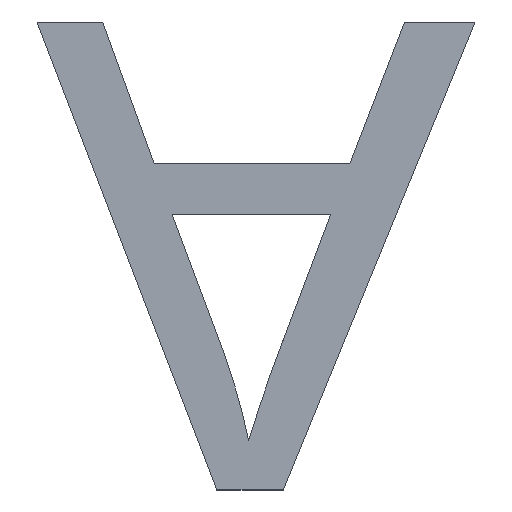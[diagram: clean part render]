
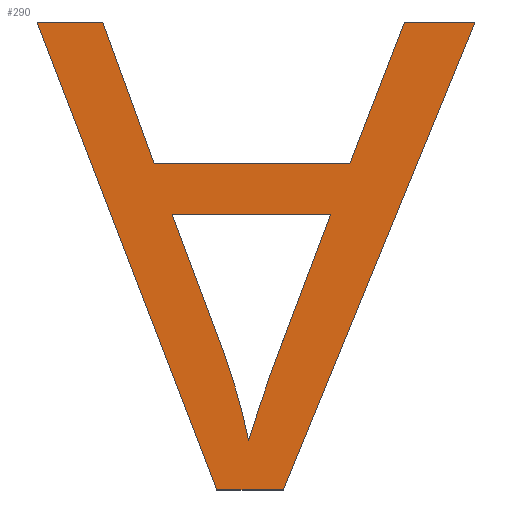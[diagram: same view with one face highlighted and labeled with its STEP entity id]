
A CAD part, top view. The second image highlights one B-rep face of the part: STEP entity #290.
In plain terms, the highlighted planar face has unit normal (0, 0, 1).
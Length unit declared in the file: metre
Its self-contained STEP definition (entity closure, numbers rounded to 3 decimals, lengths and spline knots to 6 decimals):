
#14=CIRCLE('',#299,0.002226);
#16=CIRCLE('',#302,0.001032);
#85=ORIENTED_EDGE('',*,*,#135,.T.);
#86=ORIENTED_EDGE('',*,*,#113,.T.);
#87=ORIENTED_EDGE('',*,*,#117,.T.);
#88=ORIENTED_EDGE('',*,*,#120,.T.);
#89=ORIENTED_EDGE('',*,*,#123,.T.);
#90=ORIENTED_EDGE('',*,*,#126,.T.);
#91=ORIENTED_EDGE('',*,*,#129,.T.);
#92=ORIENTED_EDGE('',*,*,#132,.T.);
#93=ORIENTED_EDGE('',*,*,#111,.T.);
#94=ORIENTED_EDGE('',*,*,#98,.T.);
#95=ORIENTED_EDGE('',*,*,#102,.T.);
#96=ORIENTED_EDGE('',*,*,#105,.T.);
#97=ORIENTED_EDGE('',*,*,#108,.T.);
#98=EDGE_CURVE('',#137,#138,#163,.F.);
#102=EDGE_CURVE('',#138,#141,#167,.T.);
#105=EDGE_CURVE('',#141,#143,#14,.F.);
#108=EDGE_CURVE('',#143,#145,#16,.F.);
#111=EDGE_CURVE('',#145,#137,#170,.T.);
#113=EDGE_CURVE('',#147,#148,#172,.T.);
#117=EDGE_CURVE('',#148,#151,#176,.F.);
#120=EDGE_CURVE('',#151,#153,#179,.T.);
#123=EDGE_CURVE('',#153,#155,#182,.T.);
#126=EDGE_CURVE('',#155,#157,#185,.T.);
#129=EDGE_CURVE('',#157,#159,#188,.T.);
#132=EDGE_CURVE('',#159,#161,#191,.T.);
#135=EDGE_CURVE('',#161,#147,#194,.T.);
#137=VERTEX_POINT('',#391);
#138=VERTEX_POINT('',#392);
#141=VERTEX_POINT('',#400);
#143=VERTEX_POINT('',#406);
#145=VERTEX_POINT('',#415);
#147=VERTEX_POINT('',#427);
#148=VERTEX_POINT('',#428);
#151=VERTEX_POINT('',#436);
#153=VERTEX_POINT('',#442);
#155=VERTEX_POINT('',#448);
#157=VERTEX_POINT('',#454);
#159=VERTEX_POINT('',#460);
#161=VERTEX_POINT('',#466);
#163=LINE('',#390,#196);
#167=LINE('',#399,#200);
#170=LINE('',#423,#203);
#172=LINE('',#426,#205);
#176=LINE('',#435,#209);
#179=LINE('',#441,#212);
#182=LINE('',#447,#215);
#185=LINE('',#453,#218);
#188=LINE('',#459,#221);
#191=LINE('',#465,#224);
#194=LINE('',#471,#227);
#196=VECTOR('',#319,1.);
#200=VECTOR('',#325,1.);
#203=VECTOR('',#342,1.);
#205=VECTOR('',#346,1.);
#209=VECTOR('',#352,1.);
#212=VECTOR('',#357,1.);
#215=VECTOR('',#362,1.);
#218=VECTOR('',#367,1.);
#221=VECTOR('',#372,1.);
#224=VECTOR('',#377,1.);
#227=VECTOR('',#382,1.);
#244=EDGE_LOOP('',(#85,#86,#87,#88,#89,#90,#91,#92));
#245=EDGE_LOOP('',(#93,#94,#95,#96,#97));
#261=FACE_BOUND('',#244,.T.);
#262=FACE_BOUND('',#245,.T.);
#275=PLANE('',#314);
#290=ADVANCED_FACE('',(#261,#262),#275,.F.);
#299=AXIS2_PLACEMENT_3D('',#405,#330,#331);
#302=AXIS2_PLACEMENT_3D('',#414,#336,#337);
#314=AXIS2_PLACEMENT_3D('',#474,#386,#387);
#319=DIRECTION('',(-1.,0.,0.));
#325=DIRECTION('',(-0.353,-0.936,0.));
#330=DIRECTION('',(0.,0.,-1.));
#331=DIRECTION('',(0.,1.,0.));
#336=DIRECTION('',(0.,0.,-1.));
#337=DIRECTION('',(0.,1.,0.));
#342=DIRECTION('',(-0.351,0.937,0.));
#346=DIRECTION('',(0.359,-0.934,0.));
#352=DIRECTION('',(-1.,0.,0.));
#357=DIRECTION('',(0.379,0.925,0.));
#362=DIRECTION('',(-1.,0.,0.));
#367=DIRECTION('',(-0.359,-0.933,0.));
#372=DIRECTION('',(-1.,0.,0.));
#377=DIRECTION('',(-0.341,0.94,0.));
#382=DIRECTION('',(-1.,0.,0.));
#386=DIRECTION('',(0.,0.,-1.));
#387=DIRECTION('',(0.,-1.,0.));
#390=CARTESIAN_POINT('',(-0.042351,0.001343,-0.03));
#391=CARTESIAN_POINT('',(-0.041732,0.001343,-0.03));
#392=CARTESIAN_POINT('',(-0.041455,0.001343,-0.03));
#399=CARTESIAN_POINT('',(-0.041455,0.001343,-0.03));
#400=CARTESIAN_POINT('',(-0.04154,0.001117,-0.03));
#405=CARTESIAN_POINT('',(-0.039465,0.000311,-0.03));
#406=CARTESIAN_POINT('',(-0.041598,0.000947,-0.03));
#414=CARTESIAN_POINT('',(-0.04261,0.000746,-0.03));
#415=CARTESIAN_POINT('',(-0.041642,0.001103,-0.03));
#423=CARTESIAN_POINT('',(-0.041642,0.001103,-0.03));
#426=CARTESIAN_POINT('',(-0.041967,0.001679,-0.03));
#427=CARTESIAN_POINT('',(-0.041967,0.001679,-0.03));
#428=CARTESIAN_POINT('',(-0.041654,0.000862,-0.03));
#435=CARTESIAN_POINT('',(-0.042351,0.000862,-0.03));
#436=CARTESIAN_POINT('',(-0.041537,0.000862,-0.03));
#441=CARTESIAN_POINT('',(-0.041537,0.000862,-0.03));
#442=CARTESIAN_POINT('',(-0.041203,0.001679,-0.03));
#447=CARTESIAN_POINT('',(-0.042351,0.001679,-0.03));
#448=CARTESIAN_POINT('',(-0.041326,0.001679,-0.03));
#453=CARTESIAN_POINT('',(-0.041326,0.001679,-0.03));
#454=CARTESIAN_POINT('',(-0.041421,0.001431,-0.03));
#459=CARTESIAN_POINT('',(-0.042351,0.001431,-0.03));
#460=CARTESIAN_POINT('',(-0.041763,0.001431,-0.03));
#465=CARTESIAN_POINT('',(-0.041763,0.001431,-0.03));
#466=CARTESIAN_POINT('',(-0.041853,0.001679,-0.03));
#471=CARTESIAN_POINT('',(-0.042351,0.001679,-0.03));
#474=CARTESIAN_POINT('',(-0.042351,0.00127,-0.03));
